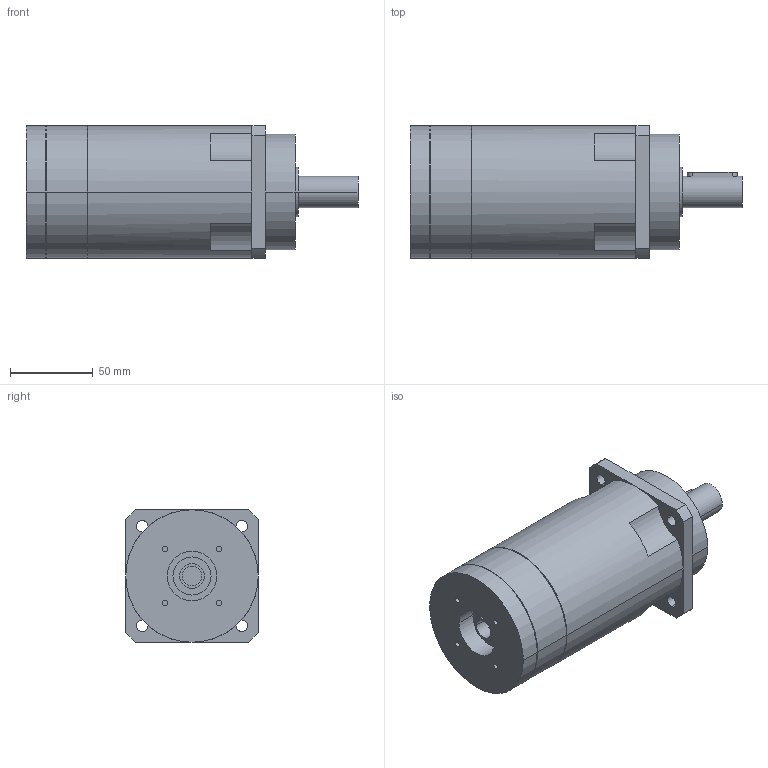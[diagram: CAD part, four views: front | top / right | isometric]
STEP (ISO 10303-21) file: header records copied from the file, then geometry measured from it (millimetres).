
FILE_DESCRIPTION(('CoCreate Modeling STEP Export'),'2;1');
FILE_NAME('GPR100_ig-48-64-80-100-120-144-180-216_19_B5_12_P24.stp','2014-08-26T11:53:40',(''),(''),'CoCreate Modeling STEP processor for AP214 (Solid Model)','CoCreate Modeling 16.00C 25-Feb-2009 (C) Parametric Technology GmbH','');
FILE_SCHEMA(('AUTOMOTIVE_DESIGN { 1 0 10303 214 1 1 1 1 }'));
Length unit declared in the file: millimetre
Products named in the file (2): GPR100_ig-48-64-80-100-120-144-180-216_19_B5_12_P24
Assembly tree (1 placements, depth 2):
  GPR100_ig-48-64-80-100-120-144-180-216_19_B5_12_P24
    GPR100_ig-48-64-80-100-120-144-180-216_19_B5_12_P24
Bounding box: 200.4 x 80 x 80 mm (x, y, z)
Volume: 797302.1 mm3; surface area: 60186 mm2
Topology: 1 solids, 1 shells, 84 faces, 214 edges, 144 vertices
Faces by surface type: cylinder 48, plane 30, cone 6
Entity records: 2289 total; most frequent: ORIENTED_EDGE 424, CARTESIAN_POINT 416, DIRECTION 336, EDGE_CURVE 212, VERTEX_POINT 144, AXIS2_PLACEMENT_3D 128, EDGE_LOOP 106, FACE_OUTER_BOUND 84
